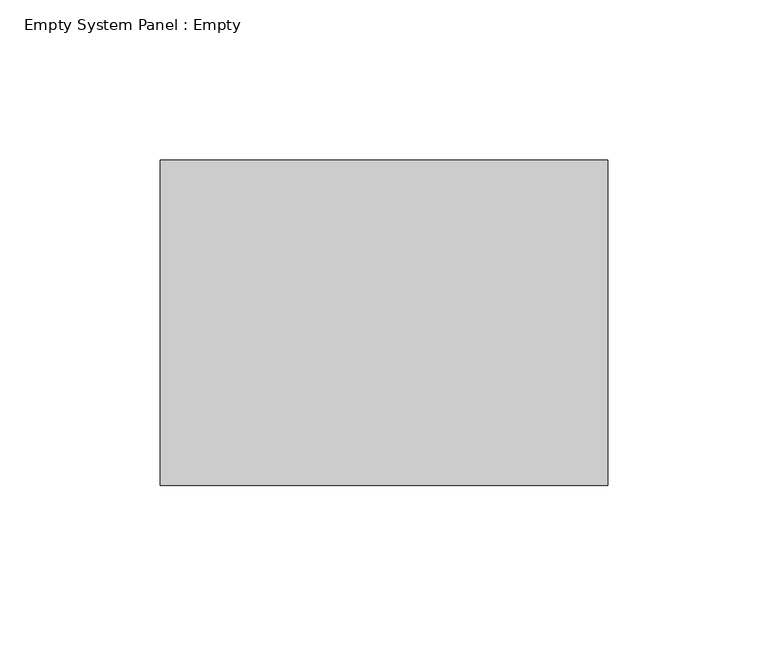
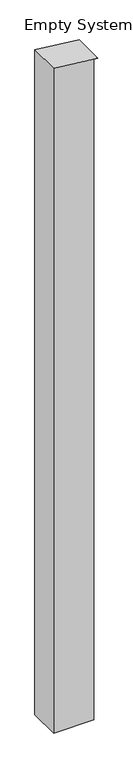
"""IFC4 building model written with IfcOpenShell, lengths in millimetres: plate geometry, Empty System Panel : Empty."""

from ifc_helpers import new_model, si_unit, frame, origin, place, context, project, spatial, polyline, outline, extrude, source, transform, mapped, element, save


def empty_system_panel_empty_ebf2468c(model_context):
    return source(origin(), model_context, "Body", "SweptSolid", [
        extrude(outline(polyline([(0.0, -69.85), (0.0, 57.15), (2195.8955132, 57.15), (2195.8955132, 69.85), (2211.5207032, -69.85), (0.0, -69.85)])), frame((0.0, -50.8, 0.0), z_axis=(0.0, 1.0, 0.0), x_axis=(0.0, 0.0, 1.0)), (0.0, 0.0, 1.0), 101.6),
    ])


if __name__ == "__main__":
    model = new_model("IFC4")
    model_context = context("Model", 3, world=origin())
    ifc_project = project(units=[si_unit("LENGTHUNIT", "METRE", prefix="MILLI")], contexts=[model_context])
    site = spatial("IfcSite", under=ifc_project)
    building = spatial("IfcBuilding", under=site)
    placement = place(None, origin())
    empty_system_panel_empty_shape = empty_system_panel_empty_ebf2468c(model_context)
    element("IfcPlate", 1, ObjectType="Empty System Panel : Empty", at=placement, inside=building, context=model_context, shape_type="MappedRepresentation", body=[
        mapped(empty_system_panel_empty_shape, transform((0.0, 0.0, 0.0), x_axis=(1.0, 0.0, 0.0), y_axis=(0.0, 1.0, 0.0), z_axis=(0.0, 0.0, 1.0))),
    ])
    save(model, "model.ifc")
